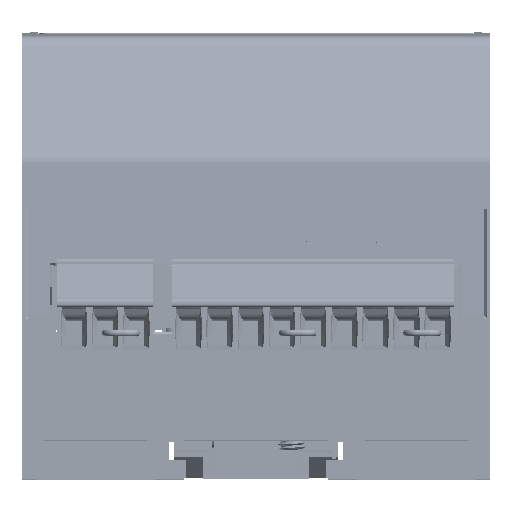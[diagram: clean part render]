
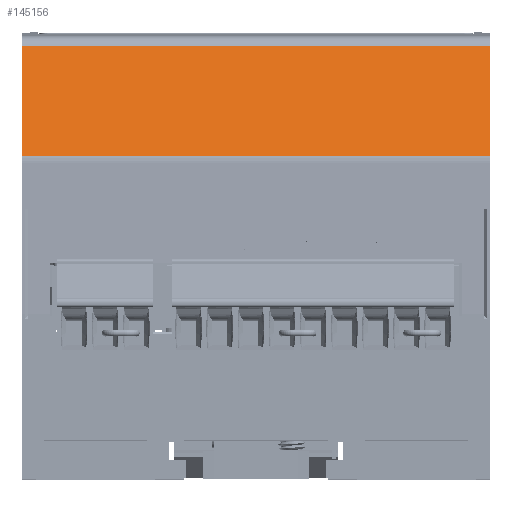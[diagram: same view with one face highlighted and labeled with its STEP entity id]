
A CAD part, top view. The second image highlights one B-rep face of the part: STEP entity #145156.
In plain terms, the highlighted planar face has unit normal (0, 0.391, 0.92) as drawn and (-0.921, 0, -0.391) by its records, which use the part's own axes.
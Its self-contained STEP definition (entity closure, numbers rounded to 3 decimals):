
#4678 = VERTEX_POINT ( 'NONE', #78660 ) ;
#59077 = CARTESIAN_POINT ( 'NONE',  ( 17.362, 59.512, 11.578 ) ) ;
#60188 = CARTESIAN_POINT ( 'NONE',  ( 17.362, 44.635, 11.578 ) ) ;
#64934 = VERTEX_POINT ( 'NONE', #300488 ) ;
#74585 = LINE ( 'NONE', #59077, #295377 ) ;
#78660 = CARTESIAN_POINT ( 'NONE',  ( 22.613, 44.635, -0.794 ) ) ;
#95834 = CARTESIAN_POINT ( 'NONE',  ( 22.613, -7.965, -0.794 ) ) ;
#98396 = CARTESIAN_POINT ( 'NONE',  ( 22.613, 44.635, -0.794 ) ) ;
#109837 = EDGE_CURVE ( 'NONE', #64934, #131723, #74585, .T. ) ;
#124499 = CARTESIAN_POINT ( 'NONE',  ( 17.362, -7.965, 11.578 ) ) ;
#131723 = VERTEX_POINT ( 'NONE', #60188 ) ;
#133957 = ORIENTED_EDGE ( 'NONE', *, *, #357556, .F. ) ;
#145156 = ADVANCED_FACE ( 'NONE', ( #398678 ), #301973, .T. ) ;
#146312 = VECTOR ( 'NONE', #197386, 1000. ) ;
#166272 = VECTOR ( 'NONE', #349769, 1000. ) ;
#171607 = DIRECTION ( 'NONE',  ( 0., 1., 0. ) ) ;
#172022 = VECTOR ( 'NONE', #171607, 1000. ) ;
#197386 = DIRECTION ( 'NONE',  ( -0.391, 0., 0.921 ) ) ;
#229057 = ORIENTED_EDGE ( 'NONE', *, *, #334918, .F. ) ;
#234557 = DIRECTION ( 'NONE',  ( -0.391, 0., 0.921 ) ) ;
#237644 = CARTESIAN_POINT ( 'NONE',  ( 22.613, 14.585, -0.794 ) ) ;
#245032 = EDGE_LOOP ( 'NONE', ( #332151, #133957, #355153, #229057 ) ) ;
#263301 = VERTEX_POINT ( 'NONE', #95834 ) ;
#269005 = DIRECTION ( 'NONE',  ( -0.921, 0., -0.391 ) ) ;
#280994 = EDGE_CURVE ( 'NONE', #263301, #4678, #290234, .T. ) ;
#285472 = LINE ( 'NONE', #98396, #146312 ) ;
#289318 = LINE ( 'NONE', #124499, #166272 ) ;
#290234 = LINE ( 'NONE', #237644, #172022 ) ;
#293815 = DIRECTION ( 'NONE',  ( 0., 1., 0. ) ) ;
#295377 = VECTOR ( 'NONE', #293815, 1000. ) ;
#300488 = CARTESIAN_POINT ( 'NONE',  ( 17.362, -7.965, 11.578 ) ) ;
#301973 = PLANE ( 'NONE',  #380149 ) ;
#332101 = CARTESIAN_POINT ( 'NONE',  ( 22.613, 59.512, -0.794 ) ) ;
#332151 = ORIENTED_EDGE ( 'NONE', *, *, #280994, .F. ) ;
#334918 = EDGE_CURVE ( 'NONE', #4678, #131723, #285472, .T. ) ;
#349769 = DIRECTION ( 'NONE',  ( 0.391, 0., -0.921 ) ) ;
#355153 = ORIENTED_EDGE ( 'NONE', *, *, #109837, .T. ) ;
#357556 = EDGE_CURVE ( 'NONE', #64934, #263301, #289318, .T. ) ;
#380149 = AXIS2_PLACEMENT_3D ( 'NONE', #332101, #269005, #234557 ) ;
#398678 = FACE_OUTER_BOUND ( 'NONE', #245032, .T. ) ;
